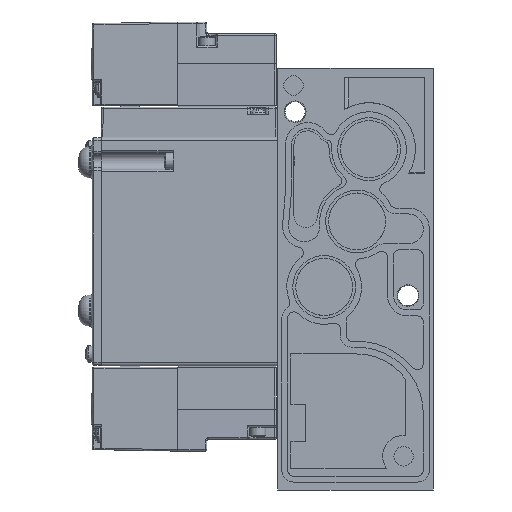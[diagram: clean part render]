
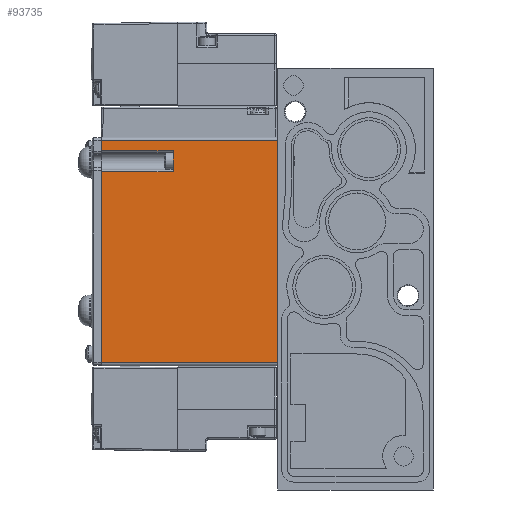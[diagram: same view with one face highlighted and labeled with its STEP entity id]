
A CAD part, left-side view. The second image highlights one B-rep face of the part: STEP entity #93735.
In plain terms, the highlighted planar face has unit normal (-1, 0, 0).
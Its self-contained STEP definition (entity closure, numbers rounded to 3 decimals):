
#1182 = VERTEX_POINT ( 'NONE', #42384 ) ;
#3333 = DIRECTION ( 'NONE',  ( 0., 1., 0. ) ) ;
#3943 = VECTOR ( 'NONE', #66226, 1000. ) ;
#6130 = VERTEX_POINT ( 'NONE', #23493 ) ;
#6818 = ORIENTED_EDGE ( 'NONE', *, *, #13369, .F. ) ;
#11161 = EDGE_CURVE ( 'NONE', #79436, #89108, #94132, .T. ) ;
#11971 = ORIENTED_EDGE ( 'NONE', *, *, #85164, .F. ) ;
#13369 = EDGE_CURVE ( 'NONE', #86621, #52016, #58634, .T. ) ;
#13662 = ORIENTED_EDGE ( 'NONE', *, *, #11161, .F. ) ;
#15182 = VECTOR ( 'NONE', #3333, 1000. ) ;
#16726 = VECTOR ( 'NONE', #62843, 1000. ) ;
#17273 = VECTOR ( 'NONE', #66936, 1000. ) ;
#18642 = CARTESIAN_POINT ( 'NONE',  ( -12., 59., 37.25 ) ) ;
#21551 = DIRECTION ( 'NONE',  ( 0., 0., -1. ) ) ;
#21868 = CARTESIAN_POINT ( 'NONE',  ( -12., 0., 38.25 ) ) ;
#22772 = CARTESIAN_POINT ( 'NONE',  ( -12., 59., 38.25 ) ) ;
#23493 = CARTESIAN_POINT ( 'NONE',  ( -12., 35., 26.75 ) ) ;
#23931 = VERTEX_POINT ( 'NONE', #57331 ) ;
#26773 = CARTESIAN_POINT ( 'NONE',  ( -12., 59., -37.25 ) ) ;
#27589 = ORIENTED_EDGE ( 'NONE', *, *, #75407, .F. ) ;
#28287 = ORIENTED_EDGE ( 'NONE', *, *, #49705, .T. ) ;
#32983 = VECTOR ( 'NONE', #59370, 1000. ) ;
#35830 = CARTESIAN_POINT ( 'NONE',  ( -12., 59., 38.25 ) ) ;
#38863 = VECTOR ( 'NONE', #21551, 1000. ) ;
#39571 = CARTESIAN_POINT ( 'NONE',  ( -12., 0., -37.25 ) ) ;
#39792 = CARTESIAN_POINT ( 'NONE',  ( -12., 59., 33.75 ) ) ;
#42384 = CARTESIAN_POINT ( 'NONE',  ( -12., 59., 37.25 ) ) ;
#42989 = PLANE ( 'NONE',  #89676 ) ;
#43303 = DIRECTION ( 'NONE',  ( 0., 0., 1. ) ) ;
#48113 = CARTESIAN_POINT ( 'NONE',  ( -12., 35., 26.75 ) ) ;
#48389 = CARTESIAN_POINT ( 'NONE',  ( -12., 59., 26.75 ) ) ;
#49705 = EDGE_CURVE ( 'NONE', #86621, #1182, #76037, .T. ) ;
#52016 = VERTEX_POINT ( 'NONE', #39571 ) ;
#54754 = EDGE_LOOP ( 'NONE', ( #13662, #56437, #6818, #28287, #27589, #55059, #11971, #62386 ) ) ;
#55059 = ORIENTED_EDGE ( 'NONE', *, *, #91236, .F. ) ;
#55758 = VERTEX_POINT ( 'NONE', #39792 ) ;
#56437 = ORIENTED_EDGE ( 'NONE', *, *, #67657, .T. ) ;
#57331 = CARTESIAN_POINT ( 'NONE',  ( -12., 35., 33.75 ) ) ;
#58410 = EDGE_CURVE ( 'NONE', #6130, #89108, #72190, .T. ) ;
#58634 = LINE ( 'NONE', #21868, #38863 ) ;
#59370 = DIRECTION ( 'NONE',  ( 0., -1., 0. ) ) ;
#59529 = CARTESIAN_POINT ( 'NONE',  ( -12., 0., 37.25 ) ) ;
#62386 = ORIENTED_EDGE ( 'NONE', *, *, #58410, .T. ) ;
#62843 = DIRECTION ( 'NONE',  ( 0., 1., 0. ) ) ;
#63342 = VECTOR ( 'NONE', #93660, 1000. ) ;
#63448 = LINE ( 'NONE', #96257, #3943 ) ;
#66226 = DIRECTION ( 'NONE',  ( 0., 1., 0. ) ) ;
#66334 = DIRECTION ( 'NONE',  ( 0., 0., 1. ) ) ;
#66798 = CARTESIAN_POINT ( 'NONE',  ( -12., 0., -37.25 ) ) ;
#66936 = DIRECTION ( 'NONE',  ( 0., 0., 1. ) ) ;
#67657 = EDGE_CURVE ( 'NONE', #79436, #52016, #72453, .T. ) ;
#71118 = CARTESIAN_POINT ( 'NONE',  ( -12., 35., 26.75 ) ) ;
#72190 = LINE ( 'NONE', #48113, #15182 ) ;
#72453 = LINE ( 'NONE', #66798, #32983 ) ;
#75407 = EDGE_CURVE ( 'NONE', #55758, #1182, #87394, .T. ) ;
#76037 = LINE ( 'NONE', #18642, #16726 ) ;
#79436 = VERTEX_POINT ( 'NONE', #26773 ) ;
#81977 = FACE_OUTER_BOUND ( 'NONE', #54754, .T. ) ;
#83123 = LINE ( 'NONE', #71118, #63342 ) ;
#85019 = VECTOR ( 'NONE', #66334, 1000. ) ;
#85164 = EDGE_CURVE ( 'NONE', #6130, #23931, #83123, .T. ) ;
#86621 = VERTEX_POINT ( 'NONE', #59529 ) ;
#87394 = LINE ( 'NONE', #89161, #85019 ) ;
#87835 = DIRECTION ( 'NONE',  ( -1., 0., 0. ) ) ;
#89108 = VERTEX_POINT ( 'NONE', #48389 ) ;
#89161 = CARTESIAN_POINT ( 'NONE',  ( -12., 59., 38.25 ) ) ;
#89676 = AXIS2_PLACEMENT_3D ( 'NONE', #35830, #87835, #43303 ) ;
#91236 = EDGE_CURVE ( 'NONE', #23931, #55758, #63448, .T. ) ;
#93660 = DIRECTION ( 'NONE',  ( 0., 0., 1. ) ) ;
#93735 = ADVANCED_FACE ( 'NONE', ( #81977 ), #42989, .T. ) ;
#94132 = LINE ( 'NONE', #22772, #17273 ) ;
#96257 = CARTESIAN_POINT ( 'NONE',  ( -12., 35., 33.75 ) ) ;
